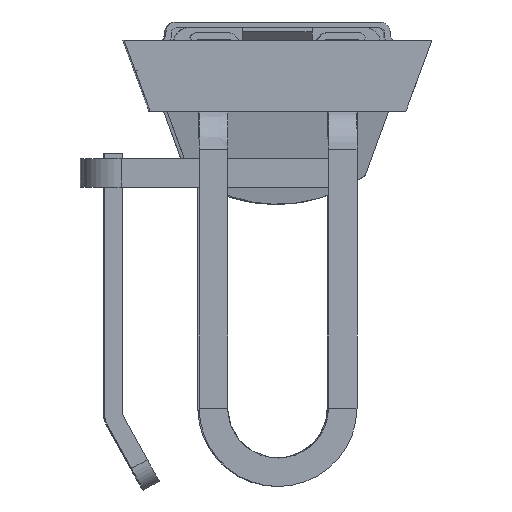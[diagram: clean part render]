
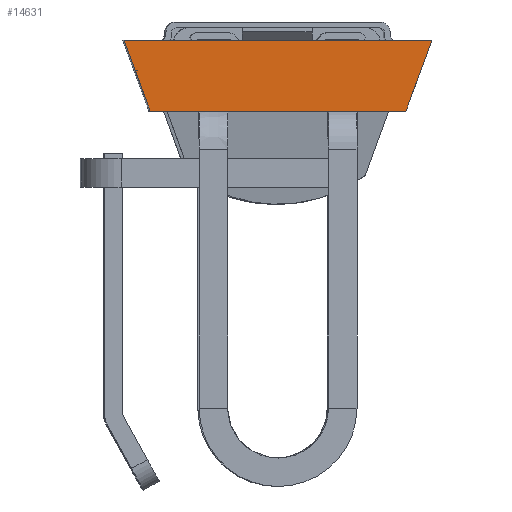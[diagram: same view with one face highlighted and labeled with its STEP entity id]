
A CAD part, left-side view. The second image highlights one B-rep face of the part: STEP entity #14631.
In plain terms, the highlighted planar face has unit normal (-1, -0.001, 0) as drawn and (0, 0, 1) by its records, which use the part's own axes.
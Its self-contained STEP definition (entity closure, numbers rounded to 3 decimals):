
#1570=FACE_OUTER_BOUND('',#2424,.T.);
#2424=EDGE_LOOP('',(#12060,#12061,#12062,#12063));
#3701=LINE('',#23581,#5266);
#3706=LINE('',#23590,#5271);
#3720=LINE('',#23624,#5285);
#3722=LINE('',#23627,#5287);
#5266=VECTOR('',#18943,10.);
#5271=VECTOR('',#18950,10.);
#5285=VECTOR('',#18990,10.);
#5287=VECTOR('',#18994,10.);
#6730=VERTEX_POINT('',#23578);
#6731=VERTEX_POINT('',#23580);
#6734=VERTEX_POINT('',#23588);
#6741=VERTEX_POINT('',#23623);
#8578=EDGE_CURVE('',#6731,#6730,#3701,.T.);
#8583=EDGE_CURVE('',#6730,#6734,#3706,.T.);
#8600=EDGE_CURVE('',#6741,#6731,#3720,.T.);
#8602=EDGE_CURVE('',#6734,#6741,#3722,.T.);
#12060=ORIENTED_EDGE('',*,*,#8578,.T.);
#12061=ORIENTED_EDGE('',*,*,#8583,.T.);
#12062=ORIENTED_EDGE('',*,*,#8602,.T.);
#12063=ORIENTED_EDGE('',*,*,#8600,.T.);
#13980=PLANE('',#15950);
#14631=ADVANCED_FACE('',(#1570),#13980,.T.);
#15950=AXIS2_PLACEMENT_3D('',#23628,#18995,#18996);
#18943=DIRECTION('',(0.,-1.,0.));
#18950=DIRECTION('',(0.939,0.345,0.));
#18990=DIRECTION('',(-0.939,0.345,0.));
#18994=DIRECTION('',(0.,1.,0.));
#18995=DIRECTION('center_axis',(0.,0.,1.));
#18996=DIRECTION('ref_axis',(1.,0.,0.));
#23578=CARTESIAN_POINT('',(-10.214,-50.791,458.));
#23580=CARTESIAN_POINT('',(-10.214,8.663,458.));
#23581=CARTESIAN_POINT('',(-10.214,-39.573,458.));
#23588=CARTESIAN_POINT('',(3.486,-45.761,458.));
#23590=CARTESIAN_POINT('',(3.486,-45.761,458.));
#23623=CARTESIAN_POINT('',(3.486,3.633,458.));
#23624=CARTESIAN_POINT('',(-13.214,9.764,458.));
#23627=CARTESIAN_POINT('',(3.486,-21.064,458.));
#23628=CARTESIAN_POINT('Origin',(-5.563,-21.064,458.));
